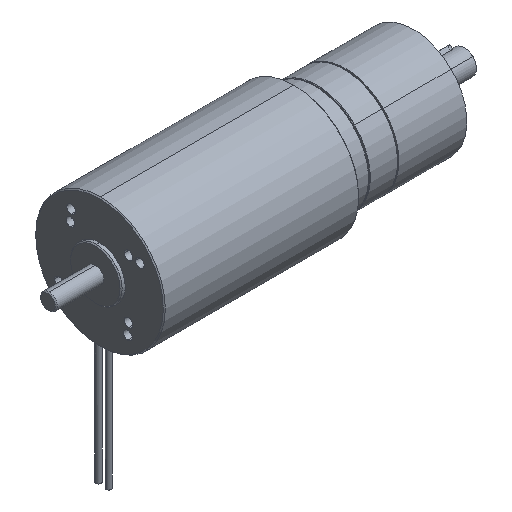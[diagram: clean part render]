
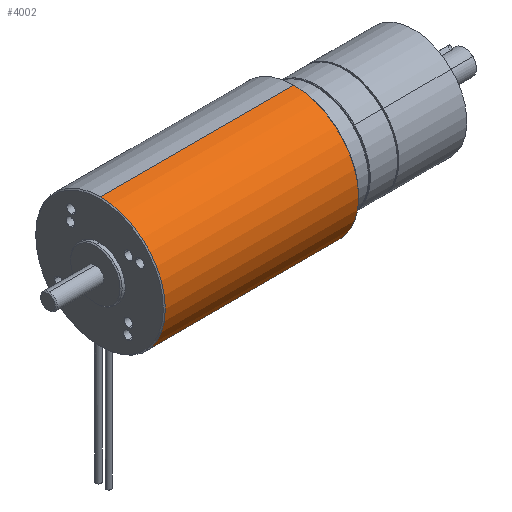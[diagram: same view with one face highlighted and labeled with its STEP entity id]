
A CAD part, isometric view. The second image highlights one B-rep face of the part: STEP entity #4002.
In plain terms, the highlighted cylindrical face has radius 31.5 mm (diameter 63 mm), a partial arc.
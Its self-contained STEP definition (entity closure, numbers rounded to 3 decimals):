
#88 = CARTESIAN_POINT ( 'NONE',  ( 26.834, -3.75, -31.276 ) ) ;
#731 = FACE_BOUND ( 'NONE', #19613, .T. ) ;
#740 = AXIS2_PLACEMENT_3D ( 'NONE', #15356, #17977, #26624 ) ;
#764 = DIRECTION ( 'NONE',  ( -1., 0., 0. ) ) ;
#958 = CARTESIAN_POINT ( 'NONE',  ( 27.164, -3.75, -31.276 ) ) ;
#1060 = CARTESIAN_POINT ( 'NONE',  ( 27.769, -1.501, -31.464 ) ) ;
#1064 = CARTESIAN_POINT ( 'NONE',  ( -195.728, 0., -31.5 ) ) ;
#1211 = CARTESIAN_POINT ( 'NONE',  ( 27.164, -1.25, -31.475 ) ) ;
#1362 = CARTESIAN_POINT ( 'NONE',  ( 27.629, -1.408, -31.469 ) ) ;
#1652 = CARTESIAN_POINT ( 'NONE',  ( 26.673, -1.282, -31.474 ) ) ;
#1819 = CARTESIAN_POINT ( 'NONE',  ( 25.5, 0., -31.5 ) ) ;
#2154 = CARTESIAN_POINT ( 'NONE',  ( 26., -3.267, -31.33 ) ) ;
#2800 = LINE ( 'NONE', #16983, #8800 ) ;
#3264 = CARTESIAN_POINT ( 'NONE',  ( 28.218, -2.173, -31.425 ) ) ;
#3417 = CARTESIAN_POINT ( 'NONE',  ( 26.837, -1.25, -31.475 ) ) ;
#3421 = LINE ( 'NONE', #1064, #21668 ) ;
#3806 = EDGE_CURVE ( 'NONE', #27018, #28725, #15898, .T. ) ;
#4002 = ADVANCED_FACE ( 'NONE', ( #18496, #731 ), #18641, .T. ) ;
#4489 = CARTESIAN_POINT ( 'NONE',  ( 25.75, -2.5, -31.401 ) ) ;
#4929 = CARTESIAN_POINT ( 'NONE',  ( 27.327, -3.718, -31.28 ) ) ;
#5472 = CARTESIAN_POINT ( 'NONE',  ( 25.79, -2.176, -31.425 ) ) ;
#5515 = CARTESIAN_POINT ( 'NONE',  ( 28.217, -2.829, -31.373 ) ) ;
#5711 = DIRECTION ( 'NONE',  ( -1., 0., 0. ) ) ;
#6055 = CARTESIAN_POINT ( 'NONE',  ( 28.25, -2.5, -31.401 ) ) ;
#6581 = CARTESIAN_POINT ( 'NONE',  ( 25.75, -2.663, -31.388 ) ) ;
#6724 = CARTESIAN_POINT ( 'NONE',  ( 25.907, -3.128, -31.345 ) ) ;
#7382 = CARTESIAN_POINT ( 'NONE',  ( 119.5, 0., 0. ) ) ;
#7838 = ORIENTED_EDGE ( 'NONE', *, *, #26442, .T. ) ;
#7855 = CARTESIAN_POINT ( 'NONE',  ( 27.942, -1.674, -31.456 ) ) ;
#7952 = EDGE_CURVE ( 'NONE', #22072, #11105, #2800, .T. ) ;
#8800 = VECTOR ( 'NONE', #5711, 1000. ) ;
#10050 = CARTESIAN_POINT ( 'NONE',  ( 28.085, -1.875, -31.444 ) ) ;
#10098 = CARTESIAN_POINT ( 'NONE',  ( 28.25, -2.665, -31.387 ) ) ;
#10506 = AXIS2_PLACEMENT_3D ( 'NONE', #18203, #27134, #16292 ) ;
#10509 = EDGE_LOOP ( 'NONE', ( #10629, #19295, #21149, #7838 ) ) ;
#10622 = CARTESIAN_POINT ( 'NONE',  ( 26.37, -1.408, -31.469 ) ) ;
#10629 = ORIENTED_EDGE ( 'NONE', *, *, #11494, .F. ) ;
#10991 = CARTESIAN_POINT ( 'NONE',  ( 25.75, -2.5, -31.401 ) ) ;
#11105 = VERTEX_POINT ( 'NONE', #12997 ) ;
#11494 = EDGE_CURVE ( 'NONE', #16820, #26737, #3421, .T. ) ;
#11841 = CARTESIAN_POINT ( 'NONE',  ( 27.626, -3.585, -31.295 ) ) ;
#12242 = CARTESIAN_POINT ( 'NONE',  ( 25.75, -2.419, -31.407 ) ) ;
#12380 = CARTESIAN_POINT ( 'NONE',  ( 25.814, -2.098, -31.43 ) ) ;
#12997 = CARTESIAN_POINT ( 'NONE',  ( 25.5, 0., 31.5 ) ) ;
#14726 = CARTESIAN_POINT ( 'NONE',  ( 28.124, -1.946, -31.44 ) ) ;
#14876 = CARTESIAN_POINT ( 'NONE',  ( 28.25, -2.335, -31.414 ) ) ;
#15356 = CARTESIAN_POINT ( 'NONE',  ( 25.5, 0., 0. ) ) ;
#15519 = CARTESIAN_POINT ( 'NONE',  ( 25.783, -2.827, -31.373 ) ) ;
#15657 = CARTESIAN_POINT ( 'NONE',  ( 26.23, -3.498, -31.305 ) ) ;
#15853 = CARTESIAN_POINT ( 'NONE',  ( 119.5, 0., 31.5 ) ) ;
#15898 = B_SPLINE_CURVE_WITH_KNOTS ( 'NONE', 3,
 ( #25562, #14876, #3264, #14726, #10050, #21175, #7855, #1060, #1362, #19123, #1211, #3417, #1652, #10622, #19557, #26147, #28196, #12380, #5472, #16758, #12242, #28053 ),
 .UNSPECIFIED., .F., .F.,
 ( 4, 2, 2, 2, 2, 2, 2, 2, 2, 2, 4 ),
 ( 0., 0., 0.001, 0.001, 0.001, 0.002, 0.002, 0.003, 0.003, 0.004, 0.004 ),
 .UNSPECIFIED. ) ;
#16222 = CARTESIAN_POINT ( 'NONE',  ( 28.092, -3.129, -31.345 ) ) ;
#16292 = DIRECTION ( 'NONE',  ( 0., 0., 1. ) ) ;
#16758 = CARTESIAN_POINT ( 'NONE',  ( 25.758, -2.336, -31.413 ) ) ;
#16820 = VERTEX_POINT ( 'NONE', #24515 ) ;
#16983 = CARTESIAN_POINT ( 'NONE',  ( -195.728, 0., 31.5 ) ) ;
#17488 = B_SPLINE_CURVE_WITH_KNOTS ( 'NONE', 3,
 ( #10991, #6581, #15519, #6724, #2154, #15657, #24595, #22388, #88, #958, #4929, #22811, #11841, #27656, #20640, #25607, #16222, #5515, #10098, #18574 ),
 .UNSPECIFIED., .F., .F.,
 ( 4, 2, 2, 2, 2, 2, 2, 2, 2, 4 ),
 ( 0.004, 0.004, 0.005, 0.005, 0.006, 0.006, 0.007, 0.007, 0.007, 0.008 ),
 .UNSPECIFIED. ) ;
#17491 = EDGE_CURVE ( 'NONE', #28725, #27018, #17488, .T. ) ;
#17976 = AXIS2_PLACEMENT_3D ( 'NONE', #7382, #24553, #22352 ) ;
#17977 = DIRECTION ( 'NONE',  ( 1., 0., 0. ) ) ;
#18203 = CARTESIAN_POINT ( 'NONE',  ( -195.728, 0., 0. ) ) ;
#18496 = FACE_OUTER_BOUND ( 'NONE', #10509, .T. ) ;
#18574 = CARTESIAN_POINT ( 'NONE',  ( 28.25, -2.5, -31.401 ) ) ;
#18641 = CYLINDRICAL_SURFACE ( 'NONE', #10506, 31.5 ) ;
#19123 = CARTESIAN_POINT ( 'NONE',  ( 27.328, -1.283, -31.474 ) ) ;
#19295 = ORIENTED_EDGE ( 'NONE', *, *, #25040, .T. ) ;
#19557 = CARTESIAN_POINT ( 'NONE',  ( 26.232, -1.5, -31.464 ) ) ;
#19613 = EDGE_LOOP ( 'NONE', ( #21592, #21411 ) ) ;
#20640 = CARTESIAN_POINT ( 'NONE',  ( 27.826, -3.441, -31.312 ) ) ;
#21149 = ORIENTED_EDGE ( 'NONE', *, *, #7952, .T. ) ;
#21175 = CARTESIAN_POINT ( 'NONE',  ( 27.995, -1.739, -31.452 ) ) ;
#21411 = ORIENTED_EDGE ( 'NONE', *, *, #17491, .T. ) ;
#21592 = ORIENTED_EDGE ( 'NONE', *, *, #3806, .T. ) ;
#21668 = VECTOR ( 'NONE', #764, 1000. ) ;
#22072 = VERTEX_POINT ( 'NONE', #15853 ) ;
#22352 = DIRECTION ( 'NONE',  ( 0., 0., 1. ) ) ;
#22388 = CARTESIAN_POINT ( 'NONE',  ( 26.671, -3.717, -31.28 ) ) ;
#22811 = CARTESIAN_POINT ( 'NONE',  ( 27.554, -3.623, -31.291 ) ) ;
#24515 = CARTESIAN_POINT ( 'NONE',  ( 119.5, 0., -31.5 ) ) ;
#24553 = DIRECTION ( 'NONE',  ( -1., 0., 0. ) ) ;
#24595 = CARTESIAN_POINT ( 'NONE',  ( 26.368, -3.591, -31.295 ) ) ;
#25040 = EDGE_CURVE ( 'NONE', #16820, #22072, #25956, .T. ) ;
#25562 = CARTESIAN_POINT ( 'NONE',  ( 28.25, -2.5, -31.401 ) ) ;
#25593 = CIRCLE ( 'NONE', #740, 31.5 ) ;
#25607 = CARTESIAN_POINT ( 'NONE',  ( 27.999, -3.268, -31.33 ) ) ;
#25956 = CIRCLE ( 'NONE', #17976, 31.5 ) ;
#26147 = CARTESIAN_POINT ( 'NONE',  ( 25.999, -1.733, -31.452 ) ) ;
#26442 = EDGE_CURVE ( 'NONE', #11105, #26737, #25593, .T. ) ;
#26624 = DIRECTION ( 'NONE',  ( 0., 0., -1. ) ) ;
#26737 = VERTEX_POINT ( 'NONE', #1819 ) ;
#27018 = VERTEX_POINT ( 'NONE', #6055 ) ;
#27134 = DIRECTION ( 'NONE',  ( -1., 0., 0. ) ) ;
#27656 = CARTESIAN_POINT ( 'NONE',  ( 27.762, -3.494, -31.306 ) ) ;
#28053 = CARTESIAN_POINT ( 'NONE',  ( 25.75, -2.5, -31.401 ) ) ;
#28196 = CARTESIAN_POINT ( 'NONE',  ( 25.907, -1.871, -31.445 ) ) ;
#28725 = VERTEX_POINT ( 'NONE', #4489 ) ;
